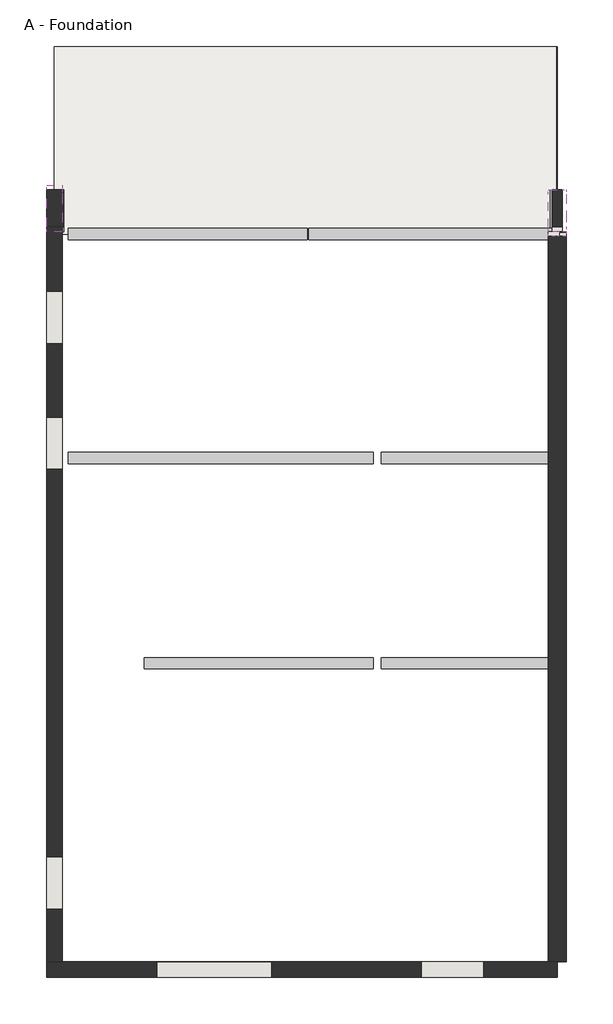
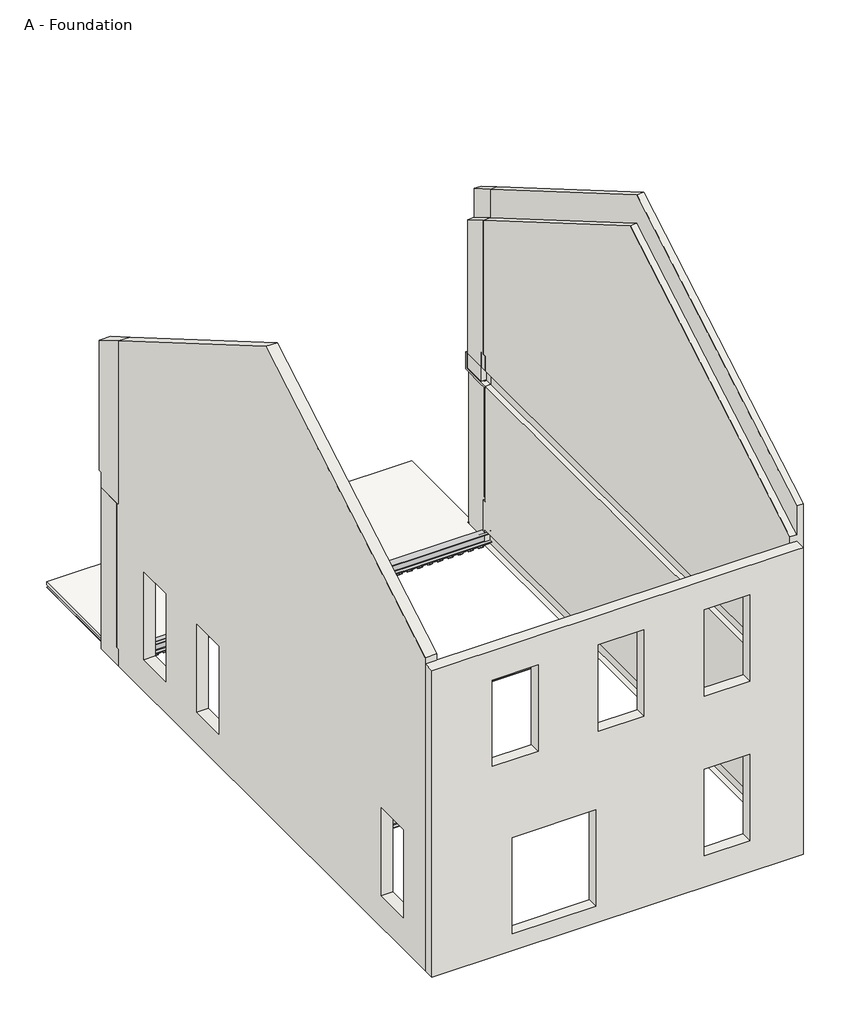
# One storey: 42 beams, 8 walls, 1 slab.
"""IFC4 building model written with IfcOpenShell, lengths in millimetres."""

from ifc_helpers import new_model, si_unit, frame, origin, place, context, project, spatial, polyline, outline, extrude, faceted_brep, transform, mapped, element, save
from components import beam_958abbb1, beam_2f59a93e, beam_e3502a18, beam_ae19472e, beam_c9c6f53d, w_wide_flange_w8x24_315c8387, w_wide_flange_w8x24_86ed89ce, w_wide_flange_w8x24_2efcf998, w_wide_flange_w8x24_5daaecee, w_wide_flange_w8x24_30a310c4

model = new_model("IFC4")

# Units and contexts
model_context = context("Model", 3, world=origin())
ifc_project = project(units=[si_unit("LENGTHUNIT", "METRE", prefix="MILLI")], contexts=[model_context])

# Site, building, storey
site = spatial("IfcSite", under=ifc_project)
building = spatial("IfcBuilding", under=site)
storey = spatial("IfcBuildingStorey", under=building, Name="A - Foundation", Elevation=-361.95)

# Beams
placement = place(None, origin())
beam_shape = beam_958abbb1(model_context)
element("IfcBeam", 1, ObjectType="B-Deck_Single_Flute_3d_14388 : B-Deck_Single_Flute_3d_14388", at=placement, inside=storey, context=model_context, shape_type="MappedRepresentation", body=[
    mapped(beam_shape, transform((-11097.8780847, 4793.0210538, -364.0463066), x_axis=(0.0, -1.0, 0.0), y_axis=(1.0, 0.0, 0.0), z_axis=(0.0, 0.0, 1.0))),
])
element("IfcBeam", 2, ObjectType="B-Deck_Single_Flute_3d_14388 : B-Deck_Single_Flute_3d_14388", at=placement, inside=storey, context=model_context, shape_type="MappedRepresentation", body=[
    mapped(beam_shape, transform((-10691.4780847, 4793.0210538, -364.0463066), x_axis=(0.0, -1.0, 0.0), y_axis=(1.0, 0.0, 0.0), z_axis=(0.0, 0.0, 1.0))),
])
element("IfcBeam", 3, ObjectType="B-Deck_Single_Flute_3d_14388 : B-Deck_Single_Flute_3d_14388", at=placement, inside=storey, context=model_context, shape_type="MappedRepresentation", body=[
    mapped(beam_shape, transform((-10488.2780847, 4793.0210538, -364.0463066), x_axis=(0.0, -1.0, 0.0), y_axis=(1.0, 0.0, 0.0), z_axis=(0.0, 0.0, 1.0))),
])
element("IfcBeam", 4, ObjectType="B-Deck_Single_Flute_3d_14388 : B-Deck_Single_Flute_3d_14388", at=placement, inside=storey, context=model_context, shape_type="MappedRepresentation", body=[
    mapped(beam_shape, transform((-10285.0780847, 4793.0210538, -364.0463066), x_axis=(0.0, -1.0, 0.0), y_axis=(1.0, 0.0, 0.0), z_axis=(0.0, 0.0, 1.0))),
])
element("IfcBeam", 5, ObjectType="B-Deck_Single_Flute_3d_14388 : B-Deck_Single_Flute_3d_14388", at=placement, inside=storey, context=model_context, shape_type="MappedRepresentation", body=[
    mapped(beam_shape, transform((-10081.8780847, 4793.0210538, -364.0463066), x_axis=(0.0, -1.0, 0.0), y_axis=(1.0, 0.0, 0.0), z_axis=(0.0, 0.0, 1.0))),
])
element("IfcBeam", 6, ObjectType="B-Deck_Single_Flute_3d_14388 : B-Deck_Single_Flute_3d_14388", at=placement, inside=storey, context=model_context, shape_type="MappedRepresentation", body=[
    mapped(beam_shape, transform((-9878.6780847, 4793.0210538, -364.0463066), x_axis=(0.0, -1.0, 0.0), y_axis=(1.0, 0.0, 0.0), z_axis=(0.0, 0.0, 1.0))),
])
element("IfcBeam", 7, ObjectType="B-Deck_Single_Flute_3d_14388 : B-Deck_Single_Flute_3d_14388", at=placement, inside=storey, context=model_context, shape_type="MappedRepresentation", body=[
    mapped(beam_shape, transform((-9675.4780847, 4793.0210538, -364.0463066), x_axis=(0.0, -1.0, 0.0), y_axis=(1.0, 0.0, 0.0), z_axis=(0.0, 0.0, 1.0))),
])
element("IfcBeam", 8, ObjectType="B-Deck_Single_Flute_3d_14388 : B-Deck_Single_Flute_3d_14388", at=placement, inside=storey, context=model_context, shape_type="MappedRepresentation", body=[
    mapped(beam_shape, transform((-9472.2780847, 4793.0210538, -364.0463066), x_axis=(0.0, -1.0, 0.0), y_axis=(1.0, 0.0, 0.0), z_axis=(0.0, 0.0, 1.0))),
])
element("IfcBeam", 9, ObjectType="B-Deck_Single_Flute_3d_14388 : B-Deck_Single_Flute_3d_14388", at=placement, inside=storey, context=model_context, shape_type="MappedRepresentation", body=[
    mapped(beam_shape, transform((-9269.0780847, 4793.0210538, -364.0463066), x_axis=(0.0, -1.0, 0.0), y_axis=(1.0, 0.0, 0.0), z_axis=(0.0, 0.0, 1.0))),
])
element("IfcBeam", 10, ObjectType="B-Deck_Single_Flute_3d_14388 : B-Deck_Single_Flute_3d_14388", at=placement, inside=storey, context=model_context, shape_type="MappedRepresentation", body=[
    mapped(beam_shape, transform((-9064.2205166, 4793.0210538, -364.0463066), x_axis=(0.0, -1.0, 0.0), y_axis=(1.0, 0.0, 0.0), z_axis=(0.0, 0.0, 1.0))),
])
element("IfcBeam", 11, ObjectType="B-Deck_Single_Flute_3d_14388 : B-Deck_Single_Flute_3d_14388", at=placement, inside=storey, context=model_context, shape_type="MappedRepresentation", body=[
    mapped(beam_shape, transform((-8861.0205166, 4793.0210538, -364.0463066), x_axis=(0.0, -1.0, 0.0), y_axis=(1.0, 0.0, 0.0), z_axis=(0.0, 0.0, 1.0))),
])
element("IfcBeam", 12, ObjectType="B-Deck_Single_Flute_3d_14388 : B-Deck_Single_Flute_3d_14388", at=placement, inside=storey, context=model_context, shape_type="MappedRepresentation", body=[
    mapped(beam_shape, transform((-8657.8205166, 4793.0210538, -364.0463066), x_axis=(0.0, -1.0, 0.0), y_axis=(1.0, 0.0, 0.0), z_axis=(0.0, 0.0, 1.0))),
])
element("IfcBeam", 13, ObjectType="B-Deck_Single_Flute_3d_14388 : B-Deck_Single_Flute_3d_14388", at=placement, inside=storey, context=model_context, shape_type="MappedRepresentation", body=[
    mapped(beam_shape, transform((-8454.6205166, 4793.0210538, -364.0463066), x_axis=(0.0, -1.0, 0.0), y_axis=(1.0, 0.0, 0.0), z_axis=(0.0, 0.0, 1.0))),
])
element("IfcBeam", 14, ObjectType="B-Deck_Single_Flute_3d_14388 : B-Deck_Single_Flute_3d_14388", at=placement, inside=storey, context=model_context, shape_type="MappedRepresentation", body=[
    mapped(beam_shape, transform((-8251.4205166, 4793.0210538, -364.0463066), x_axis=(0.0, -1.0, 0.0), y_axis=(1.0, 0.0, 0.0), z_axis=(0.0, 0.0, 1.0))),
])
element("IfcBeam", 15, ObjectType="B-Deck_Single_Flute_3d_14388 : B-Deck_Single_Flute_3d_14388", at=placement, inside=storey, context=model_context, shape_type="MappedRepresentation", body=[
    mapped(beam_shape, transform((-8048.2205166, 4793.0210538, -364.0463066), x_axis=(0.0, -1.0, 0.0), y_axis=(1.0, 0.0, 0.0), z_axis=(0.0, 0.0, 1.0))),
])
element("IfcBeam", 16, ObjectType="B-Deck_Single_Flute_3d_14388 : B-Deck_Single_Flute_3d_14388", at=placement, inside=storey, context=model_context, shape_type="MappedRepresentation", body=[
    mapped(beam_shape, transform((-7845.0205166, 4793.0210538, -364.0463066), x_axis=(0.0, -1.0, 0.0), y_axis=(1.0, 0.0, 0.0), z_axis=(0.0, 0.0, 1.0))),
])
element("IfcBeam", 17, ObjectType="B-Deck_Single_Flute_3d_14388 : B-Deck_Single_Flute_3d_14388", at=placement, inside=storey, context=model_context, shape_type="MappedRepresentation", body=[
    mapped(beam_shape, transform((-7438.6205166, 4793.0210538, -364.0463066), x_axis=(0.0, -1.0, 0.0), y_axis=(1.0, 0.0, 0.0), z_axis=(0.0, 0.0, 1.0))),
])
element("IfcBeam", 18, ObjectType="B-Deck_Single_Flute_3d_14388 : B-Deck_Single_Flute_3d_14388", at=placement, inside=storey, context=model_context, shape_type="MappedRepresentation", body=[
    mapped(beam_shape, transform((-7235.4205166, 4793.0210538, -364.0463066), x_axis=(0.0, -1.0, 0.0), y_axis=(1.0, 0.0, 0.0), z_axis=(0.0, 0.0, 1.0))),
])
element("IfcBeam", 19, ObjectType="B-Deck_Single_Flute_3d_14388 : B-Deck_Single_Flute_3d_14388", at=placement, inside=storey, context=model_context, shape_type="MappedRepresentation", body=[
    mapped(beam_shape, transform((-7030.5629486, 4793.0210538, -364.0463066), x_axis=(0.0, -1.0, 0.0), y_axis=(1.0, 0.0, 0.0), z_axis=(0.0, 0.0, 1.0))),
])
element("IfcBeam", 20, ObjectType="B-Deck_Single_Flute_3d_14388 : B-Deck_Single_Flute_3d_14388", at=placement, inside=storey, context=model_context, shape_type="MappedRepresentation", body=[
    mapped(beam_shape, transform((-6827.3629486, 4793.0210538, -364.0463066), x_axis=(0.0, -1.0, 0.0), y_axis=(1.0, 0.0, 0.0), z_axis=(0.0, 0.0, 1.0))),
])
element("IfcBeam", 21, ObjectType="B-Deck_Single_Flute_3d_14388 : B-Deck_Single_Flute_3d_14388", at=placement, inside=storey, context=model_context, shape_type="MappedRepresentation", body=[
    mapped(beam_shape, transform((-6624.1629486, 4793.0210538, -364.0463066), x_axis=(0.0, -1.0, 0.0), y_axis=(1.0, 0.0, 0.0), z_axis=(0.0, 0.0, 1.0))),
])
element("IfcBeam", 22, ObjectType="B-Deck_Single_Flute_3d_14388 : B-Deck_Single_Flute_3d_14388", at=placement, inside=storey, context=model_context, shape_type="MappedRepresentation", body=[
    mapped(beam_shape, transform((-6217.7629486, 4793.0210538, -364.0463066), x_axis=(0.0, -1.0, 0.0), y_axis=(1.0, 0.0, 0.0), z_axis=(0.0, 0.0, 1.0))),
])
element("IfcBeam", 23, ObjectType="B-Deck_Single_Flute_3d_14388 : B-Deck_Single_Flute_3d_14388", at=placement, inside=storey, context=model_context, shape_type="MappedRepresentation", body=[
    mapped(beam_shape, transform((-6014.5629486, 4793.0210538, -364.0463066), x_axis=(0.0, -1.0, 0.0), y_axis=(1.0, 0.0, 0.0), z_axis=(0.0, 0.0, 1.0))),
])
element("IfcBeam", 24, ObjectType="B-Deck_Single_Flute_3d_14388 : B-Deck_Single_Flute_3d_14388", at=placement, inside=storey, context=model_context, shape_type="MappedRepresentation", body=[
    mapped(beam_shape, transform((-5811.3629486, 4793.0210538, -364.0463066), x_axis=(0.0, -1.0, 0.0), y_axis=(1.0, 0.0, 0.0), z_axis=(0.0, 0.0, 1.0))),
])
element("IfcBeam", 25, ObjectType="B-Deck_Single_Flute_3d_14388 : B-Deck_Single_Flute_3d_14388", at=placement, inside=storey, context=model_context, shape_type="MappedRepresentation", body=[
    mapped(beam_shape, transform((-5608.1629486, 4793.0210538, -364.0463066), x_axis=(0.0, -1.0, 0.0), y_axis=(1.0, 0.0, 0.0), z_axis=(0.0, 0.0, 1.0))),
])
element("IfcBeam", 26, ObjectType="B-Deck_Single_Flute_3d_14388 : B-Deck_Single_Flute_3d_14388", at=placement, inside=storey, context=model_context, shape_type="MappedRepresentation", body=[
    mapped(beam_shape, transform((-5404.9629486, 4793.0210538, -364.0463066), x_axis=(0.0, -1.0, 0.0), y_axis=(1.0, 0.0, 0.0), z_axis=(0.0, 0.0, 1.0))),
])
element("IfcBeam", 27, ObjectType="B-Deck_Single_Flute_3d_14388 : B-Deck_Single_Flute_3d_14388", at=placement, inside=storey, context=model_context, shape_type="MappedRepresentation", body=[
    mapped(beam_shape, transform((-5201.7629486, 4793.0210538, -364.0463066), x_axis=(0.0, -1.0, 0.0), y_axis=(1.0, 0.0, 0.0), z_axis=(0.0, 0.0, 1.0))),
])
element("IfcBeam", 28, ObjectType="B-Deck_Single_Flute_3d_14388 : B-Deck_Single_Flute_3d_14388", at=placement, inside=storey, context=model_context, shape_type="MappedRepresentation", body=[
    mapped(beam_shape, transform((-4998.5629486, 4793.0210538, -364.0463066), x_axis=(0.0, -1.0, 0.0), y_axis=(1.0, 0.0, 0.0), z_axis=(0.0, 0.0, 1.0))),
])
element("IfcBeam", 29, ObjectType="B-Deck_Single_Flute_3d_14388 : B-Deck_Single_Flute_3d_14388", at=placement, inside=storey, context=model_context, shape_type="MappedRepresentation", body=[
    mapped(beam_shape, transform((-4795.3629486, 4793.0210538, -364.0463066), x_axis=(0.0, -1.0, 0.0), y_axis=(1.0, 0.0, 0.0), z_axis=(0.0, 0.0, 1.0))),
])
element("IfcBeam", 30, ObjectType="B-Deck_Single_Flute_3d_14388 : B-Deck_Single_Flute_3d_14388", at=placement, inside=storey, context=model_context, shape_type="MappedRepresentation", body=[
    mapped(beam_shape, transform((-4592.1629486, 4793.0210538, -364.0463066), x_axis=(0.0, -1.0, 0.0), y_axis=(1.0, 0.0, 0.0), z_axis=(0.0, 0.0, 1.0))),
])
element("IfcBeam", 31, ObjectType="B-Deck_Single_Flute_3d_14388 : B-Deck_Single_Flute_3d_14388", at=placement, inside=storey, context=model_context, shape_type="MappedRepresentation", body=[
    mapped(beam_shape, transform((-4388.9629486, 4793.0210538, -364.0463066), x_axis=(0.0, -1.0, 0.0), y_axis=(1.0, 0.0, 0.0), z_axis=(0.0, 0.0, 1.0))),
])
element("IfcBeam", 32, ObjectType="B-Deck_Single_Flute_3d_14388 : B-Deck_Single_Flute_3d_14388", at=placement, inside=storey, context=model_context, shape_type="MappedRepresentation", body=[
    mapped(beam_shape, transform((-4185.7629486, 4793.0210538, -364.0463066), x_axis=(0.0, -1.0, 0.0), y_axis=(1.0, 0.0, 0.0), z_axis=(0.0, 0.0, 1.0))),
])
beam_2_shape = beam_2f59a93e(model_context)
element("IfcBeam", 33, ObjectType="B-Deck_Single_Flute_3d_14388 : B-Deck_Single_Flute_3d_14388", at=placement, inside=storey, context=model_context, shape_type="MappedRepresentation", body=[
    mapped(beam_2_shape, transform((-10894.6780847, 4789.8460538, -364.0463066), x_axis=(0.0, -1.0, 0.0), y_axis=(1.0, 0.0, 0.0), z_axis=(0.0, 0.0, 1.0))),
])
beam_3_shape = beam_e3502a18(model_context)
element("IfcBeam", 34, ObjectType="B-Deck_Single_Flute_3d_14388 : B-Deck_Single_Flute_3d_14388", at=placement, inside=storey, context=model_context, shape_type="MappedRepresentation", body=[
    mapped(beam_3_shape, transform((-7641.8205166, 4793.0210538, -364.0463066), x_axis=(0.0, -1.0, 0.0), y_axis=(1.0, 0.0, 0.0), z_axis=(0.0, 0.0, 1.0))),
])
beam_4_shape = beam_ae19472e(model_context)
element("IfcBeam", 35, ObjectType="B-Deck_Single_Flute_3d_14388 : B-Deck_Single_Flute_3d_14388", at=placement, inside=storey, context=model_context, shape_type="MappedRepresentation", body=[
    mapped(beam_4_shape, transform((-6420.9629486, 4821.5960538, -364.0463066), x_axis=(0.0, -1.0, 0.0), y_axis=(1.0, 0.0, 0.0), z_axis=(0.0, 0.0, 1.0))),
])
beam_5_shape = beam_c9c6f53d(model_context)
element("IfcBeam", 36, ObjectType="B-Deck_Single_Flute_3d_14388 : B-Deck_Single_Flute_3d_14388", at=placement, inside=storey, context=model_context, shape_type="MappedRepresentation", body=[
    mapped(beam_5_shape, transform((-11301.0780847, 4793.0210538, -364.0463066), x_axis=(0.0, -1.0, 0.0), y_axis=(1.0, 0.0, 0.0), z_axis=(0.0, 0.0, 1.0))),
])
w_wide_flange_w8x24_shape = w_wide_flange_w8x24_315c8387(model_context)
element("IfcBeam", 37, ObjectType="W-Wide Flange : W8X24", at=placement, inside=storey, context=model_context, shape_type="MappedRepresentation", body=[
    mapped(w_wide_flange_w8x24_shape, transform((-9030.8129486, 201.9710538, -462.661), x_axis=(1.0, 0.0, 0.0), y_axis=(0.0, 1.0, 0.0), z_axis=(0.0, 0.0, 1.0))),
])
w_wide_flange_w8x24_2_shape = w_wide_flange_w8x24_86ed89ce(model_context)
element("IfcBeam", 38, ObjectType="W-Wide Flange : W8X24", at=placement, inside=storey, context=model_context, shape_type="MappedRepresentation", body=[
    mapped(w_wide_flange_w8x24_2_shape, transform((-5392.2629486, -2782.5289462, -462.661), x_axis=(1.0, 0.0, 0.0), y_axis=(0.0, 1.0, 0.0), z_axis=(0.0, 0.0, 1.0))),
])
element("IfcBeam", 39, ObjectType="W-Wide Flange : W8X24", at=placement, inside=storey, context=model_context, shape_type="MappedRepresentation", body=[
    mapped(w_wide_flange_w8x24_2_shape, transform((-5392.2629486, 201.9710538, -462.661), x_axis=(1.0, 0.0, 0.0), y_axis=(0.0, 1.0, 0.0), z_axis=(0.0, 0.0, 1.0))),
])
w_wide_flange_w8x24_3_shape = w_wide_flange_w8x24_2efcf998(model_context)
element("IfcBeam", 40, ObjectType="W-Wide Flange : W8X24", at=placement, inside=storey, context=model_context, shape_type="MappedRepresentation", body=[
    mapped(w_wide_flange_w8x24_3_shape, transform((-9535.6379486, 3462.6960538, -157.861), x_axis=(1.0, 0.0, 0.0), y_axis=(0.0, 1.0, 0.0), z_axis=(0.0, 0.0, 1.0))),
])
w_wide_flange_w8x24_4_shape = w_wide_flange_w8x24_5daaecee(model_context)
element("IfcBeam", 41, ObjectType="W-Wide Flange : W8X24", at=placement, inside=storey, context=model_context, shape_type="MappedRepresentation", body=[
    mapped(w_wide_flange_w8x24_4_shape, transform((-5897.0879486, 3462.6960538, -157.861), x_axis=(1.0, 0.0, 0.0), y_axis=(0.0, 1.0, 0.0), z_axis=(0.0, 0.0, 1.0))),
])
w_wide_flange_w8x24_5_shape = w_wide_flange_w8x24_30a310c4(model_context)
element("IfcBeam", 42, ObjectType="W-Wide Flange : W8X24", at=placement, inside=storey, context=model_context, shape_type="MappedRepresentation", body=[
    mapped(w_wide_flange_w8x24_5_shape, transform((-8395.8129486, -2782.5289462, -462.661), x_axis=(1.0, 0.0, 0.0), y_axis=(0.0, 1.0, 0.0), z_axis=(0.0, 0.0, 1.0))),
])

# Slab
element("IfcSlab", 43, ObjectType="Deck", at=placement, inside=storey, context=model_context, shape_type="SweptSolid", body=[
    extrude(outline(polyline([(-11281.8879486, 4107.2210538), (-11402.6780847, 4107.2210538), (-11402.6780847, 6190.0210538), (-4096.8629486, 6190.0210538), (-4096.8629486, 4107.2210538), (-4189.0780847, 4107.2210538), (-4189.0780847, 3459.5210538), (-11281.8879486, 3459.5210538), (-11281.8879486, 4107.2210538)])), frame((0.0, 0.0, -304.8), z_axis=(0.0, 0.0, 1.0), x_axis=(1.0, 0.0, 0.0)), (0.0, 0.0, 1.0), 57.15),
])

# Walls
element("IfcWall", 44, ObjectType="Demising Wall", at=placement, inside=storey, context=model_context, shape_type="Brep", body=[
    faceted_brep([(-3950.8129486, 4107.2210538, 3003.55), (-3950.8129486, 4107.2210538, 3371.85), (-3950.8129486, 4040.5460538, 3371.85), (-3950.8129486, 4040.5460538, 3981.45), (-3950.8129486, 4040.5460538, 6815.1375), (-3950.8129486, 3497.6210538, 7131.84375), (-3950.8129486, 3497.6210538, 3981.45), (-3950.8129486, 3497.6210538, 3683.0), (-3950.8129486, 3430.9460538, 3683.0), (-3950.8129486, 3430.9460538, 3660.775), (-3950.8129486, 3430.9460538, 3073.4), (-3950.8129486, 3430.9460538, 3003.55), (-4217.5129486, 4053.2460538, 3051.175), (-4217.5129486, 4053.2460538, 3371.85), (-4217.5129486, 4107.2210538, 3371.85), (-4217.5129486, 4107.2210538, 3003.55), (-4217.5129486, 3564.2960538, 3003.55), (-4217.5129486, 3497.6210538, 3003.55), (-4217.5129486, 3430.9460538, 3003.55), (-4217.5129486, 3430.9460538, 3051.175), (-4217.5129486, 4040.5460538, 6205.5375), (-4217.5129486, 4040.5460538, 3371.85), (-4217.5129486, 3430.9460538, 3371.85), (-4217.5129486, 3430.9460538, 3683.0), (-4217.5129486, 3497.6210538, 3683.0), (-4217.5129486, 3497.6210538, 6522.24375), (-4112.7379486, 4053.2460538, 3051.175), (-4112.7379486, 3430.9460538, 3051.175), (-4112.7379486, 4040.5460538, 3371.85), (-4112.7379486, 3430.9460538, 3371.85), (-4112.7379486, 4053.2460538, 3371.85), (-4084.1629486, 4040.5460538, 6815.1375), (-4084.1629486, 3497.6210538, 7131.84375), (-4084.1629486, 4040.5460538, 6205.5375), (-4084.1629486, 4040.5460538, 6750.05), (-4084.1629486, 3497.6210538, 6522.24375), (-4055.5879486, 3497.6210538, 3683.0), (-4055.5879486, 3430.9460538, 3683.0)], [[[0, 1, 2, 3, 4, 5, 6, 7, 8, 9, 10, 11]], [[12, 13, 14, 15, 16, 17, 18, 19]], [[20, 21, 22, 23, 24, 25]], [[26, 12, 19, 27]], [[21, 28, 29, 22]], [[30, 26, 27, 29, 28]], [[4, 31, 32, 5]], [[26, 30, 13, 12]], [[4, 3, 2, 28, 21, 20, 33, 34, 31]], [[1, 0, 15, 14]], [[31, 34, 33, 35, 32]], [[33, 20, 25, 35]], [[0, 11, 18, 17, 16, 15]], [[2, 1, 14, 13, 30, 28]], [[24, 36, 7, 6, 5, 32, 35, 25]], [[8, 37, 23, 22, 29, 27, 19, 18, 11, 10, 9]], [[7, 36, 24, 23, 37, 8]]]),
])
element("IfcWall", 45, ObjectType="Demising Wall", at=placement, inside=storey, context=model_context, shape_type="Brep", body=[
    faceted_brep([(-3950.8129486, -7049.7289462, -323.85), (-3950.8129486, 151.1710538, -323.85), (-3950.8129486, 265.4710538, -323.85), (-3950.8129486, 3497.6210538, -323.85), (-3950.8129486, 3497.6210538, 285.75), (-3950.8129486, 3497.6210538, 609.6), (-3950.8129486, 3488.0960538, 609.6), (-3950.8129486, 3488.0960538, 288.925), (-3950.8129486, -887.0539462, 288.925), (-3950.8129486, -887.0539462, 609.6), (-3950.8129486, 3430.9460538, 609.6), (-3950.8129486, 3430.9460538, 3003.55), (-3950.8129486, 3430.9460538, 3660.775), (-3950.8129486, -887.0539462, 3660.775), (-3950.8129486, -887.0539462, 3981.45), (-3950.8129486, 40.0460538, 3981.45), (-3950.8129486, 154.3460538, 3981.45), (-3950.8129486, 3497.6210538, 3981.45), (-3950.8129486, 3497.6210538, 7131.84375), (-3950.8129486, -1590.3164462, 10099.8072917), (-3950.8129486, -7122.7539462, 6872.5520833), (-3950.8129486, -7122.7539462, 3981.45), (-3950.8129486, -4697.0539462, 3981.45), (-3950.8129486, -4582.7539462, 3981.45), (-3950.8129486, -4582.7539462, 3660.775), (-3950.8129486, -7122.7539462, 3660.775), (-3950.8129486, -7122.7539462, 609.6), (-3950.8129486, -4582.7539462, 609.6), (-3950.8129486, -4582.7539462, 288.925), (-3950.8129486, -7122.7539462, 288.925), (-3950.8129486, -7122.7539462, 285.75), (-3950.8129486, -7049.7289462, 285.75), (-4217.5129486, 3497.6210538, -323.85), (-4217.5129486, -7122.7539462, -323.85), (-4217.5129486, -7122.7539462, -320.675), (-4217.5129486, 3443.6460538, -320.675), (-4217.5129486, 3443.6460538, 0.0), (-4217.5129486, 3430.9460538, 0.0), (-4217.5129486, -417.1539462, 0.0), (-4217.5129486, -531.4539462, 0.0), (-4217.5129486, -2157.0539462, 0.0), (-4217.5129486, -2271.3539462, 0.0), (-4217.5129486, -7122.7539462, 0.0), (-4217.5129486, -7122.7539462, 285.75), (-4217.5129486, -7122.7539462, 3051.175), (-4217.5129486, 3430.9460538, 3051.175), (-4217.5129486, 3430.9460538, 3003.55), (-4217.5129486, 3430.9460538, 609.6), (-4217.5129486, 3497.6210538, 609.6), (-4217.5129486, 3497.6210538, 0.0), (-4217.5129486, -7122.7539462, 6262.9520833), (-4217.5129486, -1590.3164462, 9490.2072917), (-4217.5129486, 3497.6210538, 6522.24375), (-4217.5129486, 3497.6210538, 3683.0), (-4217.5129486, 3430.9460538, 3683.0), (-4217.5129486, 3430.9460538, 3371.85), (-4217.5129486, 154.3460538, 3371.85), (-4217.5129486, 40.0460538, 3371.85), (-4217.5129486, -2982.5539462, 3371.85), (-4217.5129486, -3096.8539462, 3371.85), (-4217.5129486, -7122.7539462, 3371.85), (-4217.5129486, -7122.7539462, 6127.75), (-4084.1629486, -7049.7289462, -323.85), (-4084.1629486, -7122.7539462, -323.85), (-4084.1629486, -1590.3164462, 9490.2072917), (-4084.1629486, -7122.7539462, 6262.9520833), (-4084.1629486, -7122.7539462, 6872.5520833), (-4084.1629486, -1590.3164462, 10099.8072917), (-4084.1629486, 3497.6210538, 7131.84375), (-4084.1629486, 3497.6210538, 6522.24375), (-4084.1629486, -7049.7289462, 285.75), (-4112.7379486, -7122.7539462, 3371.85), (-4112.7379486, -7122.7539462, 3051.175), (-4084.1629486, -7122.7539462, 285.75), (-4055.5879486, -7122.7539462, 288.925), (-4055.5879486, -7122.7539462, 609.6), (-4055.5879486, -7122.7539462, 3660.775), (-4055.5879486, -7122.7539462, 3981.45), (-4157.1879486, 3497.6210538, 609.6), (-4011.1379486, 3497.6210538, 609.6), (-4055.5879486, 3497.6210538, 3981.45), (-4055.5879486, 3497.6210538, 3683.0), (-4112.7379486, 3430.9460538, 3051.175), (-4112.7379486, 3430.9460538, 3371.85), (-4055.5879486, 3430.9460538, 3683.0), (-4055.5879486, 3430.9460538, 3660.775), (-4055.5879486, 3430.9460538, 609.6), (-4157.1879486, 3430.9460538, 609.6), (-4112.7379486, 3443.6460538, -320.675), (-4112.7379486, -7122.7539462, -320.675), (-4112.7379486, 3443.6460538, 0.0), (-4112.7379486, -7122.7539462, 0.0), (-3960.3379486, -4582.7539462, 288.925), (-3960.3379486, -887.0539462, 288.925), (-4055.5879486, 3488.0960538, 288.925), (-3960.3379486, -887.0539462, 609.6), (-3960.3379486, -4582.7539462, 609.6), (-4055.5879486, 3488.0960538, 609.6), (-3960.3379486, -4582.7539462, 3660.775), (-3960.3379486, -887.0539462, 3660.775), (-3960.3379486, -887.0539462, 3981.45), (-3960.3379486, -4582.7539462, 3981.45)], [[[0, 1, 2, 3, 4, 5, 6, 7, 8, 9, 10, 11, 12, 13, 14, 15, 16, 17, 18, 19, 20, 21, 22, 23, 24, 25, 26, 27, 28, 29, 30, 31]], [[32, 33, 34, 35, 36, 37, 38, 39, 40, 41, 42, 43, 44, 45, 46, 47, 48, 49]], [[50, 51, 52, 53, 54, 55, 56, 57, 58, 59, 60, 61]], [[3, 2, 1, 0, 62, 63, 33, 32]], [[64, 65, 66, 67, 68, 69]], [[51, 50, 65, 64]], [[20, 19, 67, 66]], [[19, 18, 68, 67]], [[52, 51, 64, 69]], [[0, 31, 70, 62]], [[65, 50, 61, 60, 71, 72, 44, 43, 73, 30, 29, 74, 75, 26, 25, 76, 77, 21, 20, 66]], [[3, 32, 49, 48, 78, 79, 5, 4]], [[68, 18, 17, 80, 81, 53, 52, 69]], [[47, 46, 45, 82, 83, 55, 54, 84, 85, 12, 11, 10, 86, 87]], [[88, 35, 34, 89]], [[36, 90, 91, 42, 41, 40, 39, 38, 37]], [[90, 88, 89, 91]], [[88, 90, 36, 35]], [[72, 82, 45, 44]], [[83, 71, 60, 59, 58, 57, 56, 55]], [[82, 72, 71, 83]], [[92, 93, 8, 7, 94, 74, 29, 28]], [[95, 96, 27, 26, 75, 86, 10, 9]], [[97, 94, 7, 6]], [[96, 92, 28, 27]], [[93, 95, 9, 8]], [[93, 92, 96, 95]], [[94, 97, 86, 75, 74]], [[98, 99, 13, 12, 85, 76, 25, 24]], [[100, 101, 23, 22, 21, 77, 80, 17, 16, 15, 14]], [[101, 98, 24, 23]], [[99, 100, 14, 13]], [[99, 98, 101, 100]], [[76, 85, 84, 81, 80, 77]], [[31, 30, 73, 70]], [[63, 62, 70, 73]], [[33, 63, 73, 43, 42, 91, 89, 34]], [[5, 79, 78, 48, 47, 87, 86, 97, 6]], [[54, 53, 81, 84]]]),
])
element("IfcWall", 46, ObjectType="Demising Wall", at=placement, inside=storey, context=model_context, shape_type="Brep", body=[
    faceted_brep([(-3950.8129486, 3564.2960538, 3073.4), (-3950.8129486, 4107.2210538, 3073.4), (-3950.8129486, 4107.2210538, 3371.85), (-3950.8129486, 4040.5460538, 3371.85), (-3950.8129486, 4040.5460538, 3981.45), (-3950.8129486, 4040.5460538, 6815.1375), (-3950.8129486, 3497.6210538, 7131.84375), (-3950.8129486, 3497.6210538, 3981.45), (-3950.8129486, 3497.6210538, 3683.0), (-3950.8129486, 3564.2960538, 3683.0), (-4217.5129486, 3564.2960538, 3073.4), (-4217.5129486, 3564.2960538, 3683.0), (-4217.5129486, 3497.6210538, 3683.0), (-4217.5129486, 3497.6210538, 6522.24375), (-4217.5129486, 4040.5460538, 6205.5375), (-4217.5129486, 4040.5460538, 3371.85), (-4217.5129486, 4107.2210538, 3371.85), (-4217.5129486, 4107.2210538, 3073.4), (-4084.1629486, 4040.5460538, 6205.5375), (-4084.1629486, 4040.5460538, 6750.05), (-4084.1629486, 4040.5460538, 6815.1375), (-4084.1629486, 3497.6210538, 7131.84375), (-4011.1379486, 3564.2960538, 3073.4), (-4157.1879486, 3564.2960538, 3073.4), (-4157.1879486, 4107.2210538, 3073.4), (-4011.1379486, 4107.2210538, 3073.4), (-4084.1629486, 3497.6210538, 6522.24375), (-4055.5879486, 3497.6210538, 3683.0)], [[[0, 1, 2, 3, 4, 5, 6, 7, 8, 9]], [[10, 11, 12, 13, 14, 15, 16, 17]], [[3, 15, 14, 18, 19, 20, 5, 4]], [[6, 5, 20, 21]], [[1, 0, 22, 23, 10, 17, 24, 25]], [[2, 1, 25, 24, 17, 16]], [[21, 20, 19, 18, 26]], [[18, 14, 13, 26]], [[8, 7, 6, 21, 26, 13, 12, 27]], [[8, 27, 12, 11, 9]], [[0, 9, 11, 10, 23, 22]], [[15, 3, 2, 16]]]),
])
element("IfcWall", 47, ObjectType="Exterior - Brick on Wood Stud", at=placement, inside=storey, context=model_context, shape_type="Brep", body=[
    faceted_brep([(-4084.1629486, -7122.7539462, -361.95), (-11281.8879486, -7122.7539462, -361.95), (-11513.6629486, -7122.7539462, -361.95), (-11513.6629486, -7122.7539462, 6127.75), (-4217.5129486, -7122.7539462, 6127.75), (-4084.1629486, -7122.7539462, 6127.75), (-4084.1629486, -7122.7539462, 285.75), (-4084.1629486, -7122.7539462, -323.85), (-9910.2879486, -7122.7539462, 2032.0), (-9910.2879486, -7122.7539462, 0.0), (-10126.1879486, -7122.7539462, 0.0), (-10240.4879486, -7122.7539462, 0.0), (-11281.8879486, -7122.7539462, 0.0), (-11294.5879486, -7122.7539462, 0.0), (-11294.5879486, -7122.7539462, -320.675), (-11281.8879486, -7122.7539462, -320.675), (-4217.5129486, -7122.7539462, -320.675), (-4112.7379486, -7122.7539462, -320.675), (-4112.7379486, -7122.7539462, 0.0), (-4217.5129486, -7122.7539462, 0.0), (-8233.8879486, -7122.7539462, 0.0), (-8233.8879486, -7122.7539462, 2032.0), (-11294.5879486, -7122.7539462, 3051.175), (-11281.8879486, -7122.7539462, 3051.175), (-4217.5129486, -7122.7539462, 3051.175), (-4112.7379486, -7122.7539462, 3051.175), (-4112.7379486, -7122.7539462, 3371.85), (-4217.5129486, -7122.7539462, 3371.85), (-8754.5879486, -7122.7539462, 3371.85), (-8868.8879486, -7122.7539462, 3371.85), (-11281.8879486, -7122.7539462, 3371.85), (-11294.5879486, -7122.7539462, 3371.85), (-5150.9629486, -7122.7539462, 304.8), (-5150.9629486, -7122.7539462, 2133.6), (-6065.3629486, -7122.7539462, 2133.6), (-6065.3629486, -7122.7539462, 304.8), (-8184.8972335, -7122.7539462, 5505.45), (-8184.8972335, -7122.7539462, 3676.65), (-7270.4972335, -7122.7539462, 3676.65), (-7270.4972335, -7122.7539462, 5505.45), (-10303.526876, -7122.7539462, 5505.45), (-10303.526876, -7122.7539462, 3676.65), (-9389.126876, -7122.7539462, 3676.65), (-9389.126876, -7122.7539462, 5505.45), (-6066.267591, -7122.7539462, 5505.45), (-6066.267591, -7122.7539462, 3676.65), (-5151.867591, -7122.7539462, 3676.65), (-5151.867591, -7122.7539462, 5505.45), (-11513.6629486, -7354.5289462, -361.95), (-4084.1629486, -7354.5289462, -361.95), (-4084.1629486, -7354.5289462, 285.75), (-4084.1629486, -7354.5289462, 6127.75), (-4217.5129486, -7354.5289462, 6127.75), (-11513.6629486, -7354.5289462, 6127.75), (-8233.8879486, -7354.5289462, 0.0), (-9910.2879486, -7354.5289462, 0.0), (-9910.2879486, -7354.5289462, 2032.0), (-8233.8879486, -7354.5289462, 2032.0), (-5150.9629486, -7354.5289462, 2133.6), (-5150.9629486, -7354.5289462, 304.8), (-6065.3629486, -7354.5289462, 304.8), (-6065.3629486, -7354.5289462, 2133.6), (-8184.8972335, -7354.5289462, 3676.65), (-8184.8972335, -7354.5289462, 5505.45), (-7270.4972335, -7354.5289462, 5505.45), (-7270.4972335, -7354.5289462, 3676.65), (-10303.526876, -7354.5289462, 3676.65), (-10303.526876, -7354.5289462, 5505.45), (-9389.126876, -7354.5289462, 5505.45), (-9389.126876, -7354.5289462, 3676.65), (-6066.267591, -7354.5289462, 3676.65), (-6066.267591, -7354.5289462, 5505.45), (-5151.867591, -7354.5289462, 5505.45), (-5151.867591, -7354.5289462, 3676.65), (-8233.8879486, -7135.4539462, 0.0), (-9910.2879486, -7135.4539462, 0.0), (-11294.5879486, -7135.4539462, 3051.175), (-4112.7379486, -7135.4539462, 3051.175), (-4112.7379486, -7135.4539462, 3371.85), (-11294.5879486, -7135.4539462, 3371.85), (-11294.5879486, -7135.4539462, -320.675), (-4112.7379486, -7135.4539462, -320.675), (-11294.5879486, -7135.4539462, 0.0), (-4112.7379486, -7135.4539462, 0.0)], [[[0, 1, 2, 3, 4, 5, 6, 7], [8, 9, 10, 11, 12, 13, 14, 15, 16, 17, 18, 19, 20, 21], [22, 23, 24, 25, 26, 27, 28, 29, 30, 31], [32, 33, 34, 35], [36, 37, 38, 39], [40, 41, 42, 43], [44, 45, 46, 47]], [[48, 49, 50, 51, 52, 53], [54, 55, 56, 57], [58, 59, 60, 61], [62, 63, 64, 65], [66, 67, 68, 69], [70, 71, 72, 73]], [[2, 1, 0, 49, 48]], [[5, 4, 3, 53, 52, 51]], [[3, 2, 48, 53]], [[55, 54, 74, 75]], [[56, 55, 75, 9, 8]], [[57, 56, 8, 21]], [[54, 57, 21, 20, 74]], [[76, 77, 25, 24, 23, 22]], [[78, 79, 31, 30, 29, 28, 27, 26]], [[77, 78, 26, 25]], [[77, 76, 79, 78]], [[79, 76, 22, 31]], [[80, 81, 17, 16, 15, 14]], [[75, 82, 13, 12, 11, 10, 9]], [[83, 74, 20, 19, 18]], [[81, 83, 18, 17]], [[81, 80, 82, 75, 74, 83]], [[82, 80, 14, 13]], [[59, 58, 33, 32]], [[60, 59, 32, 35]], [[61, 60, 35, 34]], [[58, 61, 34, 33]], [[37, 36, 63, 62]], [[38, 37, 62, 65]], [[39, 38, 65, 64]], [[36, 39, 64, 63]], [[41, 40, 67, 66]], [[42, 41, 66, 69]], [[43, 42, 69, 68]], [[40, 43, 68, 67]], [[45, 44, 71, 70]], [[46, 45, 70, 73]], [[47, 46, 73, 72]], [[44, 47, 72, 71]], [[5, 51, 50, 49, 0, 7, 6]]]),
])
element("IfcWall", 48, ObjectType="Exterior - Brick on Wood Stud", at=placement, inside=storey, context=model_context, shape_type="Brep", body=[
    faceted_brep([(-11281.8879486, -7122.7539462, -361.95), (-11281.8879486, 3497.6210538, -361.95), (-11281.8879486, 3497.6210538, 0.0), (-11281.8879486, 3545.2460538, 0.0), (-11281.8879486, 3564.2960538, 0.0), (-11281.8879486, 3564.2960538, 3051.175), (-11281.8879486, -887.0539462, 3051.175), (-11281.8879486, -4582.7539462, 3051.175), (-11281.8879486, -6411.5539462, 3051.175), (-11281.8879486, -6525.8539462, 3051.175), (-11281.8879486, -7122.7539462, 3051.175), (-11281.8879486, -7122.7539462, 0.0), (-11281.8879486, -6525.8539462, 0.0), (-11281.8879486, -6411.5539462, 0.0), (-11281.8879486, -5459.0539462, 0.0), (-11281.8879486, -531.4539462, 0.0), (-11281.8879486, -417.1539462, 0.0), (-11281.8879486, 3430.9460538, 0.0), (-11281.8879486, 3443.6460538, 0.0), (-11281.8879486, 3443.6460538, -320.675), (-11281.8879486, -531.4539462, -320.675), (-11281.8879486, -5459.0539462, -320.675), (-11281.8879486, -7122.7539462, -320.675), (-11281.8879486, -5601.0243037, 2159.0), (-11281.8879486, -5601.0243037, 304.8), (-11281.8879486, -6363.0243037, 304.8), (-11281.8879486, -6363.0243037, 2159.0), (-11281.8879486, 799.7756963, 2159.0), (-11281.8879486, 799.7756963, 304.8), (-11281.8879486, 37.7756963, 304.8), (-11281.8879486, 37.7756963, 2159.0), (-11281.8879486, 2628.5756963, 2159.0), (-11281.8879486, 2628.5756963, 304.8), (-11281.8879486, 1866.5756963, 304.8), (-11281.8879486, 1866.5756963, 2159.0), (-11281.8879486, -7122.7539462, 6262.9520833), (-11281.8879486, -7122.7539462, 3371.85), (-11281.8879486, -4697.0539462, 3371.85), (-11281.8879486, -4582.7539462, 3371.85), (-11281.8879486, -887.0539462, 3371.85), (-11281.8879486, 40.0460538, 3371.85), (-11281.8879486, 154.3460538, 3371.85), (-11281.8879486, 3497.6210538, 3371.85), (-11281.8879486, 3497.6210538, 6522.24375), (-11281.8879486, -1590.3164462, 9490.2072917), (-11513.6629486, 3497.6210538, -361.95), (-11513.6629486, -7122.7539462, -361.95), (-11513.6629486, -7122.7539462, 6127.75), (-11513.6629486, -7122.7539462, 6262.9520833), (-11513.6629486, -1590.3164462, 9490.2072917), (-11513.6629486, 3497.6210538, 6522.24375), (-11513.6629486, 3497.6210538, 3051.175), (-11513.6629486, 3564.2960538, 3051.175), (-11513.6629486, 3564.2960538, 0.0), (-11513.6629486, 3497.6210538, 0.0), (-11513.6629486, -5601.0243037, 304.8), (-11513.6629486, -5601.0243037, 2159.0), (-11513.6629486, -6363.0243037, 2159.0), (-11513.6629486, -6363.0243037, 304.8), (-11513.6629486, 799.7756963, 304.8), (-11513.6629486, 799.7756963, 2159.0), (-11513.6629486, 37.7756963, 2159.0), (-11513.6629486, 37.7756963, 304.8), (-11513.6629486, 2628.5756963, 304.8), (-11513.6629486, 2628.5756963, 2159.0), (-11513.6629486, 1866.5756963, 2159.0), (-11513.6629486, 1866.5756963, 304.8), (-11294.5879486, -7122.7539462, -320.675), (-11294.5879486, -7122.7539462, 0.0), (-11294.5879486, -7122.7539462, 3051.175), (-11294.5879486, -7122.7539462, 3371.85), (-11294.5879486, 3497.6210538, 3371.85), (-11294.5879486, 3497.6210538, 3051.175), (-11294.5879486, 3443.6460538, -320.675), (-11294.5879486, 3443.6460538, 0.0)], [[[0, 1, 2, 3, 4, 5, 6, 7, 8, 9, 10, 11, 12, 13, 14, 15, 16, 17, 18, 19, 20, 21, 22], [23, 24, 25, 26], [27, 28, 29, 30], [31, 32, 33, 34]], [[35, 36, 37, 38, 39, 40, 41, 42, 43, 44]], [[45, 46, 47, 48, 49, 50, 51, 52, 53, 54], [55, 56, 57, 58], [59, 60, 61, 62], [63, 64, 65, 66]], [[1, 0, 46, 45]], [[35, 48, 47, 46, 0, 22, 67, 68, 11, 10, 69, 70, 36]], [[42, 41, 40, 39, 38, 37, 36, 70, 71]], [[70, 69, 72, 71]], [[19, 73, 67, 22, 21, 20]], [[68, 74, 18, 17, 16, 15, 14, 13, 12, 11]], [[73, 74, 68, 67]], [[74, 73, 19, 18]], [[48, 35, 44, 49]], [[43, 50, 49, 44]], [[24, 23, 56, 55]], [[25, 24, 55, 58]], [[26, 25, 58, 57]], [[23, 26, 57, 56]], [[28, 27, 60, 59]], [[29, 28, 59, 62]], [[30, 29, 62, 61]], [[27, 30, 61, 60]], [[32, 31, 64, 63]], [[33, 32, 63, 66]], [[34, 33, 66, 65]], [[31, 34, 65, 64]], [[1, 45, 54, 2]], [[4, 3, 2, 54, 53]], [[69, 10, 9, 8, 7, 6, 5, 52, 51, 72]], [[50, 43, 42, 71, 72, 51]], [[5, 4, 53, 52]]]),
])
element("IfcWall", 49, ObjectType="Exterior - Brick on Wood Stud", at=placement, inside=storey, context=model_context, shape_type="Brep", body=[
    faceted_brep([(-11281.8879486, 4173.8960538, 6127.75), (-11281.8879486, 3497.6210538, 6522.24375), (-11281.8879486, 3497.6210538, 3371.85), (-11281.8879486, 4040.5460538, 3371.85), (-11281.8879486, 4053.2460538, 3371.85), (-11281.8879486, 4053.2460538, 3051.175), (-11281.8879486, 4107.2210538, 3051.175), (-11281.8879486, 4107.2210538, 3073.4), (-11281.8879486, 4107.2210538, 3371.85), (-11281.8879486, 4154.8460538, 3371.85), (-11281.8879486, 4173.8960538, 3371.85), (-11513.6629486, 4107.2210538, 3051.175), (-11513.6629486, 3564.2960538, 3051.175), (-11513.6629486, 3497.6210538, 3051.175), (-11513.6629486, 3497.6210538, 6522.24375), (-11513.6629486, 4173.8960538, 6127.75), (-11513.6629486, 4173.8960538, 3371.85), (-11513.6629486, 4107.2210538, 3371.85), (-11294.5879486, 4053.2460538, 3051.175), (-11294.5879486, 3497.6210538, 3051.175), (-11294.5879486, 3497.6210538, 3371.85), (-11294.5879486, 4053.2460538, 3371.85)], [[[0, 1, 2, 3, 4, 5, 6, 7, 8, 9, 10]], [[11, 12, 13, 14, 15, 16, 17]], [[13, 12, 11, 6, 5, 18, 19]], [[1, 0, 15, 14]], [[20, 21, 4, 3, 2]], [[21, 18, 5, 4]], [[18, 21, 20, 19]], [[6, 11, 17, 8, 7]], [[15, 0, 10, 16]], [[1, 14, 13, 19, 20, 2]], [[10, 9, 8, 17, 16]]]),
])
element("IfcWall", 50, ObjectType="Exterior - Brick on Wood Stud w Siding", at=placement, inside=storey, context=model_context, shape_type="Brep", body=[
    faceted_brep([(-11262.8379486, 3497.6210538, -361.95), (-11262.8379486, 4107.2210538, -361.95), (-11262.8379486, 4107.2210538, 3073.4), (-11262.8379486, 3564.2960538, 3073.4), (-11262.8379486, 3564.2960538, 0.0), (-11262.8379486, 3497.6210538, 0.0), (-11513.6629486, 4107.2210538, -361.95), (-11513.6629486, 3497.6210538, -361.95), (-11513.6629486, 3497.6210538, 0.0), (-11513.6629486, 3564.2960538, 0.0), (-11513.6629486, 3564.2960538, 3051.175), (-11513.6629486, 4107.2210538, 3051.175), (-11281.8879486, 3497.6210538, -361.95), (-11281.8879486, 4107.2210538, 3051.175), (-11281.8879486, 4107.2210538, 3073.4), (-11281.8879486, 3564.2960538, 3073.4), (-11281.8879486, 3497.6210538, 0.0), (-11281.8879486, 3564.2960538, 0.0), (-11281.8879486, 3564.2960538, 3051.175), (-11281.8879486, 4053.2460538, 3051.175)], [[[0, 1, 2, 3, 4, 5]], [[6, 7, 8, 9, 10, 11]], [[1, 0, 12, 7, 6]], [[2, 1, 6, 11, 13, 14]], [[3, 2, 14, 15]], [[7, 12, 0, 5, 16, 8]], [[9, 8, 16, 5, 4, 17]], [[9, 17, 4, 3, 15, 18, 10]], [[13, 19, 18, 15, 14]], [[18, 19, 13, 11, 10]]]),
])
element("IfcWall", 51, ObjectType="Exterior - Wood Siding on Wood Stud 2", at=placement, inside=storey, context=model_context, shape_type="Brep", body=[
    faceted_brep([(-4011.1379486, 3497.6210538, 609.6), (-4011.1379486, 3497.6210538, -361.95), (-4011.1379486, 4107.2210538, -361.95), (-4011.1379486, 4107.2210538, 3073.4), (-4011.1379486, 3564.2960538, 3073.4), (-4011.1379486, 3564.2960538, 609.6), (-4157.1879486, 3497.6210538, -361.95), (-4157.1879486, 3497.6210538, 0.0), (-4157.1879486, 3497.6210538, 609.6), (-4157.1879486, 3545.2460538, 609.6), (-4157.1879486, 3564.2960538, 609.6), (-4157.1879486, 3564.2960538, 3073.4), (-4157.1879486, 4107.2210538, 3073.4), (-4157.1879486, 4107.2210538, -361.95), (-4138.1379486, 4107.2210538, -361.95), (-4138.1379486, 3497.6210538, -361.95)], [[[0, 1, 2, 3, 4, 5]], [[6, 7, 8, 9, 10, 11, 12, 13]], [[3, 2, 14, 13, 12]], [[4, 3, 12, 11]], [[2, 1, 15, 14]], [[15, 6, 13, 14]], [[0, 8, 7, 6, 15, 1]], [[5, 10, 9, 8, 0]], [[4, 11, 10, 5]]]),
])

save(model, "model.ifc")
